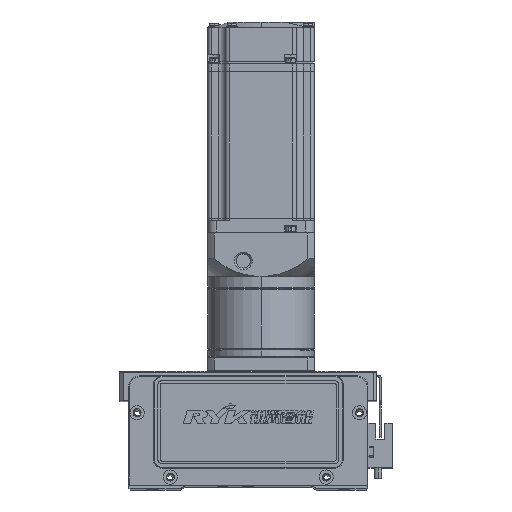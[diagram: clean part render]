
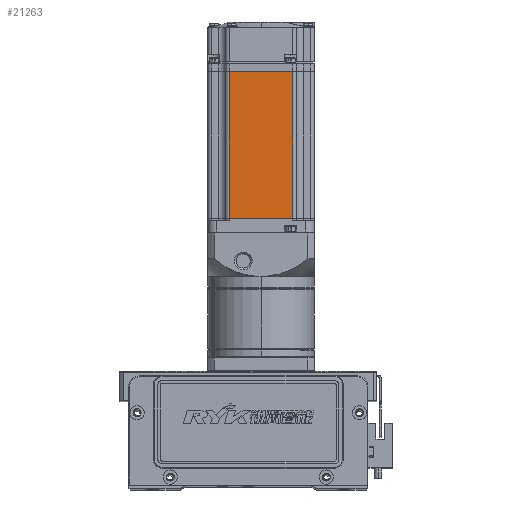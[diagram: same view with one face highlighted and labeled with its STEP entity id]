
A CAD part, top view. The second image highlights one B-rep face of the part: STEP entity #21263.
In plain terms, the highlighted planar face has unit normal (0, 0, 1).
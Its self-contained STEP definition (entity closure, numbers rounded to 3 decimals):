
#1252 = ORIENTED_EDGE ( 'NONE', *, *, #24473, .F. ) ;
#2244 = ORIENTED_EDGE ( 'NONE', *, *, #56600, .T. ) ;
#3937 = VECTOR ( 'NONE', #51996, 1000. ) ;
#5625 = CARTESIAN_POINT ( 'NONE',  ( -90.45, -18., 30. ) ) ;
#5909 = VERTEX_POINT ( 'NONE', #5625 ) ;
#6199 = EDGE_CURVE ( 'NONE', #40026, #5909, #19994, .T. ) ;
#9059 = LINE ( 'NONE', #57767, #12036 ) ;
#10514 = LINE ( 'NONE', #51796, #3937 ) ;
#11529 = ORIENTED_EDGE ( 'NONE', *, *, #60692, .F. ) ;
#11600 = VECTOR ( 'NONE', #13887, 1000. ) ;
#12036 = VECTOR ( 'NONE', #48528, 1000. ) ;
#13456 = VERTEX_POINT ( 'NONE', #27106 ) ;
#13887 = DIRECTION ( 'NONE',  ( 0., -1., 0. ) ) ;
#14994 = PLANE ( 'NONE',  #26544 ) ;
#19748 = DIRECTION ( 'NONE',  ( 1., 0., 0. ) ) ;
#19994 = LINE ( 'NONE', #43985, #32446 ) ;
#21263 = ADVANCED_FACE ( 'NONE', ( #42588 ), #14994, .T. ) ;
#24473 = EDGE_CURVE ( 'NONE', #13456, #5909, #10514, .T. ) ;
#26544 = AXIS2_PLACEMENT_3D ( 'NONE', #43370, #47892, #19748 ) ;
#27106 = CARTESIAN_POINT ( 'NONE',  ( -7.75, -18., 30. ) ) ;
#27543 = EDGE_LOOP ( 'NONE', ( #11529, #2244, #59886, #1252 ) ) ;
#29968 = CARTESIAN_POINT ( 'NONE',  ( -90.45, 18., 30. ) ) ;
#30183 = DIRECTION ( 'NONE',  ( 0., -1., 0. ) ) ;
#32446 = VECTOR ( 'NONE', #30183, 1000. ) ;
#32995 = CARTESIAN_POINT ( 'NONE',  ( -7.75, 0., 30. ) ) ;
#40026 = VERTEX_POINT ( 'NONE', #29968 ) ;
#41596 = VERTEX_POINT ( 'NONE', #57977 ) ;
#42588 = FACE_OUTER_BOUND ( 'NONE', #27543, .T. ) ;
#43370 = CARTESIAN_POINT ( 'NONE',  ( -6.5, -25., 30. ) ) ;
#43985 = CARTESIAN_POINT ( 'NONE',  ( -90.45, 0., 30. ) ) ;
#47892 = DIRECTION ( 'NONE',  ( 0., 0., 1. ) ) ;
#48528 = DIRECTION ( 'NONE',  ( -1., 0., 0. ) ) ;
#51796 = CARTESIAN_POINT ( 'NONE',  ( -6.5, -18., 30. ) ) ;
#51996 = DIRECTION ( 'NONE',  ( -1., 0., 0. ) ) ;
#55718 = LINE ( 'NONE', #32995, #11600 ) ;
#56600 = EDGE_CURVE ( 'NONE', #41596, #40026, #9059, .T. ) ;
#57767 = CARTESIAN_POINT ( 'NONE',  ( -6.5, 18., 30. ) ) ;
#57977 = CARTESIAN_POINT ( 'NONE',  ( -7.75, 18., 30. ) ) ;
#59886 = ORIENTED_EDGE ( 'NONE', *, *, #6199, .T. ) ;
#60692 = EDGE_CURVE ( 'NONE', #41596, #13456, #55718, .T. ) ;
